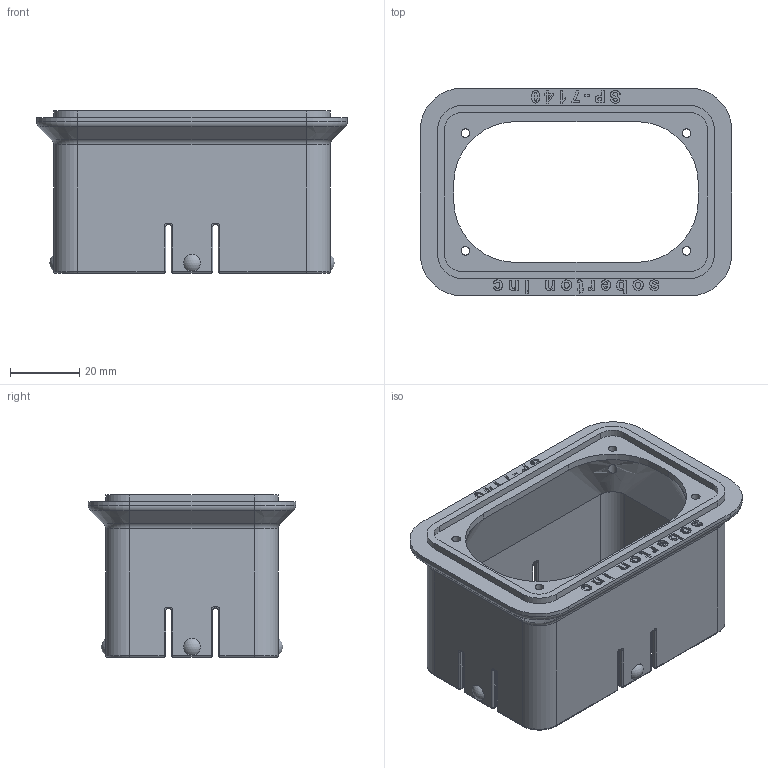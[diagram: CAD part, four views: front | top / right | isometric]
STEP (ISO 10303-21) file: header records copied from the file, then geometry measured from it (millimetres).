
FILE_DESCRIPTION(/* description */ (''),/* implementation_level */ '2;1');
FILE_NAME(/* name */ 'C:/Users/bodhe/OneDrive - Obvious Innovations LLC/Documents/Soberton Parts/Enclosure files/EC-001Q.step',/* time_stamp */ '2022-01-25T20:44:56-06:00',/* author */ (''),/* organization */ (''),/* preprocessor_version */ 'ST-DEVELOPER v18.1',/* originating_system */ 'Autodesk Translation Framework v10.10.0.1391',/* authorisation */ '');
FILE_SCHEMA (('AUTOMOTIVE_DESIGN { 1 0 10303 214 3 1 1 }'));
Length unit declared in the file: millimetre
Products named in the file (1): EC-001Q
Bounding box: 90 x 60 x 47 mm (x, y, z)
Volume: 44836 mm3; surface area: 26340.7 mm2
Topology: 1 solids, 1 shells, 628 faces, 1615 edges, 988 vertices
Faces by surface type: bspline 215, plane 185, cylinder 140, torus 48, sphere 36, cone 4
Full cylindrical faces by diameter (mm): 2.5 x4
Entity records: 21237 total; most frequent: CARTESIAN_POINT 7430, ORIENTED_EDGE 3166, DIRECTION 2299, EDGE_CURVE 1583, VERTEX_POINT 988, LINE 815, VECTOR 815, AXIS2_PLACEMENT_3D 742
